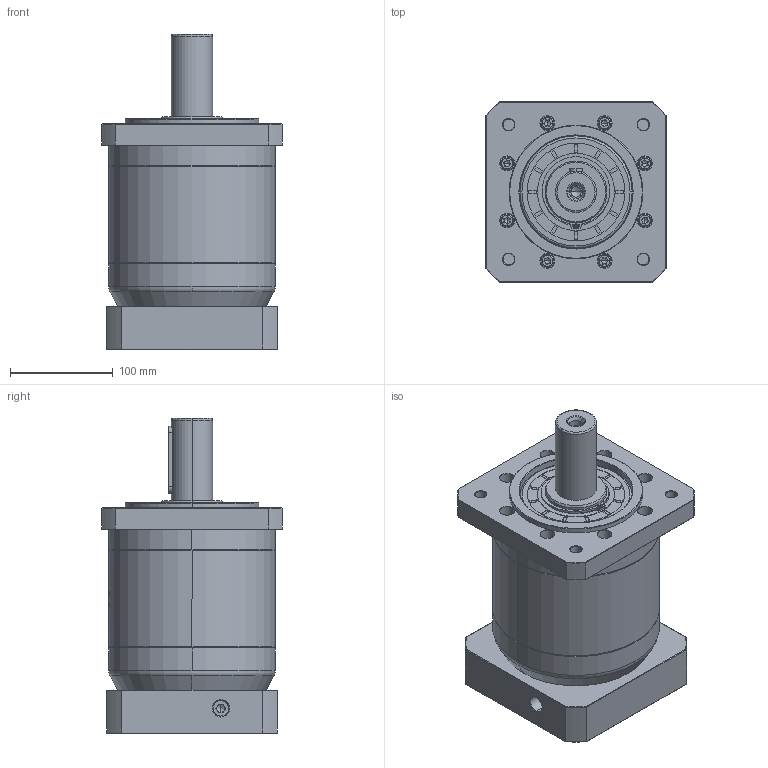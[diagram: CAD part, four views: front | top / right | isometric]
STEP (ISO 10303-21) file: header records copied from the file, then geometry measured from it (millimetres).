
FILE_DESCRIPTION (( 'STEP AP214' ), '1' );
FILE_NAME ('ZF160-D40-L2-28-130-165-M10.step', '2023-03-21T04:29:04', ( '' ), ( '' ), 'SwSTEP 2.0', 'SolidWorks 2016', '' );
FILE_SCHEMA (( 'AUTOMOTIVE_DESIGN' ));
Length unit declared in the file: millimetre
Products named in the file (1): ZF160-D40-L2-28-130-165-M10
Bounding box: 175 x 175 x 306.2 mm (x, y, z)
Volume: 4715165 mm3; surface area: 345633.3 mm2
Topology: 6 solids, 6 shells, 1636 faces, 4251 edges, 2722 vertices
Faces by surface type: plane 643, cylinder 426, cone 325, bspline 218, torus 24
Entity records: 93022 total; most frequent: CARTESIAN_POINT 37221, ORIENTED_EDGE 8442, DIRECTION 7151, EDGE_CURVE 4221, VERTEX_POINT 2722, AXIS2_PLACEMENT_3D 2480, LINE 2191, VECTOR 2191
